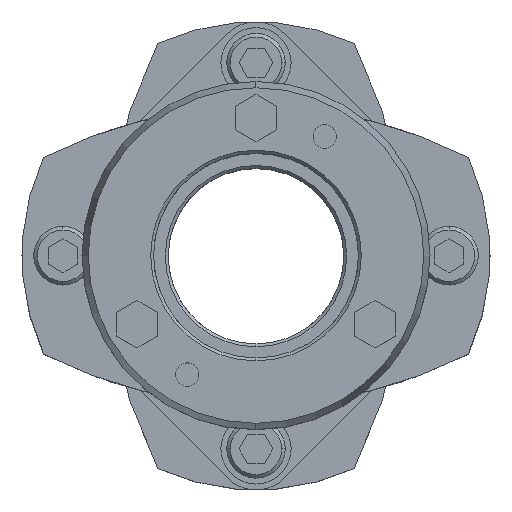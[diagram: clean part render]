
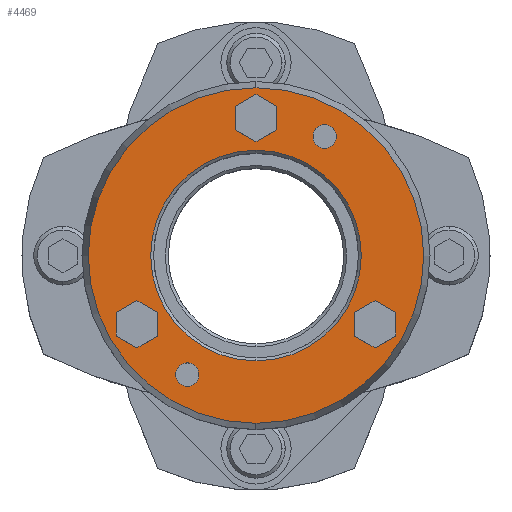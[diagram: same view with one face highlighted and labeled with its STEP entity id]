
A CAD part, top view. The second image highlights one B-rep face of the part: STEP entity #4469.
In plain terms, the highlighted planar face has unit normal (0, 0, 1).
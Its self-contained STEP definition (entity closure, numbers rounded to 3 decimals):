
#2343=CARTESIAN_POINT('',(0.,18.,45.25));
#2344=VERTEX_POINT('',#2343);
#2360=CARTESIAN_POINT('',(0.,-18.,45.25));
#2361=VERTEX_POINT('',#2360);
#2368=CARTESIAN_POINT('',(0.,0.,45.25));
#2369=DIRECTION('',(0.0,0.0,1.0));
#2370=DIRECTION('',(0.0,1.0,0.0));
#2371=AXIS2_PLACEMENT_3D('',#2368,#2369,#2370);
#2372=CIRCLE('',#2371,18.0);
#2373=EDGE_CURVE('',#2361,#2344,#2372,.T.);
#2531=CARTESIAN_POINT('',(0.,-28.678,45.25));
#2532=VERTEX_POINT('',#2531);
#2539=CARTESIAN_POINT('',(0.,28.678,45.25));
#2540=VERTEX_POINT('',#2539);
#2541=CARTESIAN_POINT('',(0.,0.,45.25));
#2542=DIRECTION('',(0.0,0.0,-1.0));
#2543=DIRECTION('',(0.0,-1.0,0.0));
#2544=AXIS2_PLACEMENT_3D('',#2541,#2542,#2543);
#2545=CIRCLE('',#2544,28.678);
#2546=EDGE_CURVE('',#2532,#2540,#2545,.T.);
#2659=CARTESIAN_POINT('',(-11.75,-18.352,45.25));
#2660=VERTEX_POINT('',#2659);
#2676=CARTESIAN_POINT('',(-11.75,-22.352,45.25));
#2677=VERTEX_POINT('',#2676);
#2684=CARTESIAN_POINT('',(-11.75,-20.352,45.25));
#2685=DIRECTION('',(0.0,0.0,-1.0));
#2686=DIRECTION('',(0.0,1.0,0.0));
#2687=AXIS2_PLACEMENT_3D('',#2684,#2685,#2686);
#2688=CIRCLE('',#2687,2.0);
#2689=EDGE_CURVE('',#2660,#2677,#2688,.T.);
#2701=CARTESIAN_POINT('',(11.75,22.352,45.25));
#2702=VERTEX_POINT('',#2701);
#2718=CARTESIAN_POINT('',(11.75,18.352,45.25));
#2719=VERTEX_POINT('',#2718);
#2726=CARTESIAN_POINT('',(11.75,20.352,45.25));
#2727=DIRECTION('',(0.0,0.0,-1.0));
#2728=DIRECTION('',(0.0,1.0,0.0));
#2729=AXIS2_PLACEMENT_3D('',#2726,#2727,#2728);
#2730=CIRCLE('',#2729,2.0);
#2731=EDGE_CURVE('',#2702,#2719,#2730,.T.);
#3482=CARTESIAN_POINT('',(11.75,20.352,45.25));
#3483=DIRECTION('',(0.0,0.0,-1.0));
#3484=DIRECTION('',(0.0,1.0,0.0));
#3485=AXIS2_PLACEMENT_3D('',#3482,#3483,#3484);
#3486=CIRCLE('',#3485,2.0);
#3487=EDGE_CURVE('',#2719,#2702,#3486,.T.);
#3516=CARTESIAN_POINT('',(-11.75,-20.352,45.25));
#3517=DIRECTION('',(0.0,0.0,-1.0));
#3518=DIRECTION('',(0.0,1.0,0.0));
#3519=AXIS2_PLACEMENT_3D('',#3516,#3517,#3518);
#3520=CIRCLE('',#3519,2.0);
#3521=EDGE_CURVE('',#2677,#2660,#3520,.T.);
#3559=CARTESIAN_POINT('',(0.,27.541,45.25));
#3560=VERTEX_POINT('',#3559);
#3567=CARTESIAN_POINT('',(-3.5,25.521,45.25));
#3568=VERTEX_POINT('',#3567);
#3569=CARTESIAN_POINT('',(-3.5,25.521,45.25));
#3570=DIRECTION('',(0.866,0.5,0.0));
#3571=VECTOR('',#3570,4.041);
#3572=LINE('',#3569,#3571);
#3573=EDGE_CURVE('',#3568,#3560,#3572,.T.);
#3597=CARTESIAN_POINT('',(3.5,25.521,45.25));
#3598=VERTEX_POINT('',#3597);
#3605=CARTESIAN_POINT('',(0.,27.541,45.25));
#3606=DIRECTION('',(0.866,-0.5,0.0));
#3607=VECTOR('',#3606,4.041);
#3608=LINE('',#3605,#3607);
#3609=EDGE_CURVE('',#3560,#3598,#3608,.T.);
#3628=CARTESIAN_POINT('',(3.5,21.479,45.25));
#3629=VERTEX_POINT('',#3628);
#3636=CARTESIAN_POINT('',(3.5,25.521,45.25));
#3637=DIRECTION('',(0.0,-1.0,0.0));
#3638=VECTOR('',#3637,4.041);
#3639=LINE('',#3636,#3638);
#3640=EDGE_CURVE('',#3598,#3629,#3639,.T.);
#3659=CARTESIAN_POINT('',(0.,19.459,45.25));
#3660=VERTEX_POINT('',#3659);
#3667=CARTESIAN_POINT('',(3.5,21.479,45.25));
#3668=DIRECTION('',(-0.866,-0.5,0.0));
#3669=VECTOR('',#3668,4.041);
#3670=LINE('',#3667,#3669);
#3671=EDGE_CURVE('',#3629,#3660,#3670,.T.);
#3690=CARTESIAN_POINT('',(-3.5,21.479,45.25));
#3691=VERTEX_POINT('',#3690);
#3698=CARTESIAN_POINT('',(0.,19.459,45.25));
#3699=DIRECTION('',(-0.866,0.5,0.0));
#3700=VECTOR('',#3699,4.041);
#3701=LINE('',#3698,#3700);
#3702=EDGE_CURVE('',#3660,#3691,#3701,.T.);
#3720=CARTESIAN_POINT('',(-3.5,21.479,45.25));
#3721=DIRECTION('',(0.0,1.0,0.0));
#3722=VECTOR('',#3721,4.041);
#3723=LINE('',#3720,#3722);
#3724=EDGE_CURVE('',#3691,#3568,#3723,.T.);
#3759=CARTESIAN_POINT('',(20.352,-7.709,45.25));
#3760=VERTEX_POINT('',#3759);
#3767=CARTESIAN_POINT('',(16.852,-9.729,45.25));
#3768=VERTEX_POINT('',#3767);
#3769=CARTESIAN_POINT('',(16.852,-9.729,45.25));
#3770=DIRECTION('',(0.866,0.5,0.0));
#3771=VECTOR('',#3770,4.041);
#3772=LINE('',#3769,#3771);
#3773=EDGE_CURVE('',#3768,#3760,#3772,.T.);
#3797=CARTESIAN_POINT('',(23.852,-9.729,45.25));
#3798=VERTEX_POINT('',#3797);
#3805=CARTESIAN_POINT('',(20.352,-7.709,45.25));
#3806=DIRECTION('',(0.866,-0.5,0.0));
#3807=VECTOR('',#3806,4.041);
#3808=LINE('',#3805,#3807);
#3809=EDGE_CURVE('',#3760,#3798,#3808,.T.);
#3828=CARTESIAN_POINT('',(23.852,-13.771,45.25));
#3829=VERTEX_POINT('',#3828);
#3836=CARTESIAN_POINT('',(23.852,-9.729,45.25));
#3837=DIRECTION('',(0.0,-1.0,0.0));
#3838=VECTOR('',#3837,4.041);
#3839=LINE('',#3836,#3838);
#3840=EDGE_CURVE('',#3798,#3829,#3839,.T.);
#3859=CARTESIAN_POINT('',(20.352,-15.791,45.25));
#3860=VERTEX_POINT('',#3859);
#3867=CARTESIAN_POINT('',(23.852,-13.771,45.25));
#3868=DIRECTION('',(-0.866,-0.5,0.0));
#3869=VECTOR('',#3868,4.041);
#3870=LINE('',#3867,#3869);
#3871=EDGE_CURVE('',#3829,#3860,#3870,.T.);
#3890=CARTESIAN_POINT('',(16.852,-13.771,45.25));
#3891=VERTEX_POINT('',#3890);
#3898=CARTESIAN_POINT('',(20.352,-15.791,45.25));
#3899=DIRECTION('',(-0.866,0.5,0.0));
#3900=VECTOR('',#3899,4.041);
#3901=LINE('',#3898,#3900);
#3902=EDGE_CURVE('',#3860,#3891,#3901,.T.);
#3920=CARTESIAN_POINT('',(16.852,-13.771,45.25));
#3921=DIRECTION('',(0.0,1.0,0.0));
#3922=VECTOR('',#3921,4.041);
#3923=LINE('',#3920,#3922);
#3924=EDGE_CURVE('',#3891,#3768,#3923,.T.);
#3959=CARTESIAN_POINT('',(-20.352,-7.709,45.25));
#3960=VERTEX_POINT('',#3959);
#3967=CARTESIAN_POINT('',(-23.852,-9.729,45.25));
#3968=VERTEX_POINT('',#3967);
#3969=CARTESIAN_POINT('',(-23.852,-9.729,45.25));
#3970=DIRECTION('',(0.866,0.5,0.0));
#3971=VECTOR('',#3970,4.041);
#3972=LINE('',#3969,#3971);
#3973=EDGE_CURVE('',#3968,#3960,#3972,.T.);
#3997=CARTESIAN_POINT('',(-16.852,-9.729,45.25));
#3998=VERTEX_POINT('',#3997);
#4005=CARTESIAN_POINT('',(-20.352,-7.709,45.25));
#4006=DIRECTION('',(0.866,-0.5,0.0));
#4007=VECTOR('',#4006,4.041);
#4008=LINE('',#4005,#4007);
#4009=EDGE_CURVE('',#3960,#3998,#4008,.T.);
#4028=CARTESIAN_POINT('',(-16.852,-13.771,45.25));
#4029=VERTEX_POINT('',#4028);
#4036=CARTESIAN_POINT('',(-16.852,-9.729,45.25));
#4037=DIRECTION('',(0.0,-1.0,0.0));
#4038=VECTOR('',#4037,4.041);
#4039=LINE('',#4036,#4038);
#4040=EDGE_CURVE('',#3998,#4029,#4039,.T.);
#4059=CARTESIAN_POINT('',(-20.352,-15.791,45.25));
#4060=VERTEX_POINT('',#4059);
#4067=CARTESIAN_POINT('',(-16.852,-13.771,45.25));
#4068=DIRECTION('',(-0.866,-0.5,0.0));
#4069=VECTOR('',#4068,4.041);
#4070=LINE('',#4067,#4069);
#4071=EDGE_CURVE('',#4029,#4060,#4070,.T.);
#4090=CARTESIAN_POINT('',(-23.852,-13.771,45.25));
#4091=VERTEX_POINT('',#4090);
#4098=CARTESIAN_POINT('',(-20.352,-15.791,45.25));
#4099=DIRECTION('',(-0.866,0.5,0.0));
#4100=VECTOR('',#4099,4.041);
#4101=LINE('',#4098,#4100);
#4102=EDGE_CURVE('',#4060,#4091,#4101,.T.);
#4120=CARTESIAN_POINT('',(-23.852,-13.771,45.25));
#4121=DIRECTION('',(0.0,1.0,0.0));
#4122=VECTOR('',#4121,4.041);
#4123=LINE('',#4120,#4122);
#4124=EDGE_CURVE('',#4091,#3968,#4123,.T.);
#4408=CARTESIAN_POINT('',(0.,0.,45.25));
#4409=DIRECTION('',(0.0,0.0,-1.0));
#4410=DIRECTION('',(0.0,-1.0,0.0));
#4411=AXIS2_PLACEMENT_3D('',#4408,#4409,#4410);
#4412=CIRCLE('',#4411,28.678);
#4413=EDGE_CURVE('',#2540,#2532,#4412,.T.);
#4418=CARTESIAN_POINT('',(0.,2.364,45.25));
#4419=DIRECTION('',(0.0,0.0,1.0));
#4420=DIRECTION('',(0.0,1.0,0.0));
#4421=AXIS2_PLACEMENT_3D('',#4418,#4419,#4420);
#4422=PLANE('',#4421);
#4423=ORIENTED_EDGE('',*,*,#4413,.F.);
#4424=ORIENTED_EDGE('',*,*,#2546,.F.);
#4425=EDGE_LOOP('',(#4423,#4424));
#4426=FACE_OUTER_BOUND('',#4425,.T.);
#4427=ORIENTED_EDGE('',*,*,#2731,.T.);
#4428=ORIENTED_EDGE('',*,*,#3487,.T.);
#4429=EDGE_LOOP('',(#4427,#4428));
#4430=FACE_BOUND('',#4429,.T.);
#4431=ORIENTED_EDGE('',*,*,#2689,.T.);
#4432=ORIENTED_EDGE('',*,*,#3521,.T.);
#4433=EDGE_LOOP('',(#4431,#4432));
#4434=FACE_BOUND('',#4433,.T.);
#4435=ORIENTED_EDGE('',*,*,#3573,.T.);
#4436=ORIENTED_EDGE('',*,*,#3609,.T.);
#4437=ORIENTED_EDGE('',*,*,#3640,.T.);
#4438=ORIENTED_EDGE('',*,*,#3671,.T.);
#4439=ORIENTED_EDGE('',*,*,#3702,.T.);
#4440=ORIENTED_EDGE('',*,*,#3724,.T.);
#4441=EDGE_LOOP('',(#4435,#4436,#4437,#4438,#4439,#4440));
#4442=FACE_BOUND('',#4441,.T.);
#4443=ORIENTED_EDGE('',*,*,#3773,.T.);
#4444=ORIENTED_EDGE('',*,*,#3809,.T.);
#4445=ORIENTED_EDGE('',*,*,#3840,.T.);
#4446=ORIENTED_EDGE('',*,*,#3871,.T.);
#4447=ORIENTED_EDGE('',*,*,#3902,.T.);
#4448=ORIENTED_EDGE('',*,*,#3924,.T.);
#4449=EDGE_LOOP('',(#4443,#4444,#4445,#4446,#4447,#4448));
#4450=FACE_BOUND('',#4449,.T.);
#4451=ORIENTED_EDGE('',*,*,#3973,.T.);
#4452=ORIENTED_EDGE('',*,*,#4009,.T.);
#4453=ORIENTED_EDGE('',*,*,#4040,.T.);
#4454=ORIENTED_EDGE('',*,*,#4071,.T.);
#4455=ORIENTED_EDGE('',*,*,#4102,.T.);
#4456=ORIENTED_EDGE('',*,*,#4124,.T.);
#4457=EDGE_LOOP('',(#4451,#4452,#4453,#4454,#4455,#4456));
#4458=FACE_BOUND('',#4457,.T.);
#4459=ORIENTED_EDGE('',*,*,#2373,.F.);
#4460=CARTESIAN_POINT('',(0.,0.,45.25));
#4461=DIRECTION('',(0.0,0.0,1.0));
#4462=DIRECTION('',(0.0,1.0,0.0));
#4463=AXIS2_PLACEMENT_3D('',#4460,#4461,#4462);
#4464=CIRCLE('',#4463,18.0);
#4465=EDGE_CURVE('',#2344,#2361,#4464,.T.);
#4466=ORIENTED_EDGE('',*,*,#4465,.F.);
#4467=EDGE_LOOP('',(#4459,#4466));
#4468=FACE_BOUND('',#4467,.T.);
#4469=ADVANCED_FACE('',(#4426,#4430,#4434,#4442,#4450,#4458,#4468),#4422,.T.);
